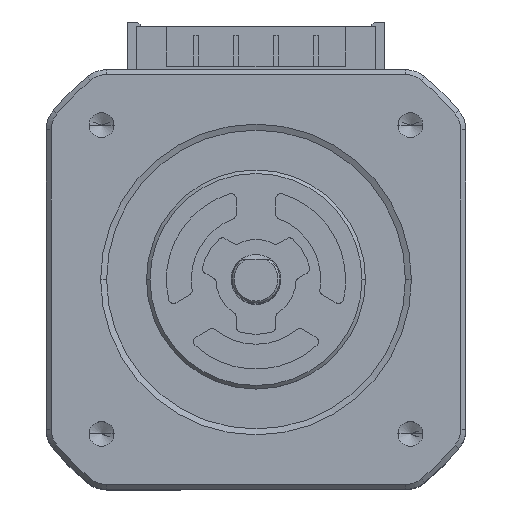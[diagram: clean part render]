
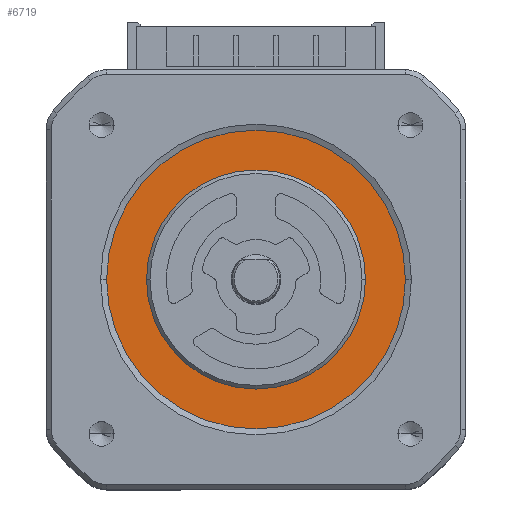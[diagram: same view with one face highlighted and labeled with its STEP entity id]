
A CAD part, top view. The second image highlights one B-rep face of the part: STEP entity #6719.
In plain terms, the highlighted planar face has unit normal (0, 0, 1).
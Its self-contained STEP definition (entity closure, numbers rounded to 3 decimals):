
#189 = EDGE_CURVE ( 'NONE', #11409, #7622, #958, .T. ) ;
#541 = DIRECTION ( 'NONE',  ( 0., 0., 1. ) ) ;
#593 = DIRECTION ( 'NONE',  ( 0., 0., 1. ) ) ;
#646 = ORIENTED_EDGE ( 'NONE', *, *, #6000, .T. ) ;
#779 = CARTESIAN_POINT ( 'NONE',  ( -15., 0., -0.3 ) ) ;
#882 = DIRECTION ( 'NONE',  ( 0., 0., 1. ) ) ;
#958 = CIRCLE ( 'NONE', #7071, 10.995 ) ;
#1521 = AXIS2_PLACEMENT_3D ( 'NONE', #7321, #882, #8407 ) ;
#2424 = EDGE_CURVE ( 'NONE', #6632, #4351, #4411, .T. ) ;
#2501 = AXIS2_PLACEMENT_3D ( 'NONE', #7030, #593, #8127 ) ;
#2564 = EDGE_CURVE ( 'NONE', #7622, #11409, #3067, .T. ) ;
#2863 = DIRECTION ( 'NONE',  ( 0., 0., 1. ) ) ;
#2940 = EDGE_LOOP ( 'NONE', ( #5233, #10770 ) ) ;
#3067 = CIRCLE ( 'NONE', #1521, 10.995 ) ;
#3628 = AXIS2_PLACEMENT_3D ( 'NONE', #9529, #11707, #5252 ) ;
#3713 = AXIS2_PLACEMENT_3D ( 'NONE', #9304, #2863, #10402 ) ;
#4351 = VERTEX_POINT ( 'NONE', #7552 ) ;
#4411 = CIRCLE ( 'NONE', #2501, 15. ) ;
#5233 = ORIENTED_EDGE ( 'NONE', *, *, #189, .F. ) ;
#5252 = DIRECTION ( 'NONE',  ( 1., 0., 0. ) ) ;
#5501 = FACE_OUTER_BOUND ( 'NONE', #7548, .T. ) ;
#6000 = EDGE_CURVE ( 'NONE', #4351, #6632, #6011, .T. ) ;
#6011 = CIRCLE ( 'NONE', #3713, 15. ) ;
#6275 = PLANE ( 'NONE',  #3628 ) ;
#6632 = VERTEX_POINT ( 'NONE', #779 ) ;
#6672 = ORIENTED_EDGE ( 'NONE', *, *, #2424, .T. ) ;
#6719 = ADVANCED_FACE ( 'NONE', ( #5501, #13780 ), #6275, .T. ) ;
#6971 = CARTESIAN_POINT ( 'NONE',  ( 0., 0., -0.3 ) ) ;
#7030 = CARTESIAN_POINT ( 'NONE',  ( 0., 0., -0.3 ) ) ;
#7071 = AXIS2_PLACEMENT_3D ( 'NONE', #6971, #541, #8069 ) ;
#7321 = CARTESIAN_POINT ( 'NONE',  ( 0., 0., -0.3 ) ) ;
#7548 = EDGE_LOOP ( 'NONE', ( #646, #6672 ) ) ;
#7552 = CARTESIAN_POINT ( 'NONE',  ( 15., 0., -0.3 ) ) ;
#7622 = VERTEX_POINT ( 'NONE', #10077 ) ;
#8069 = DIRECTION ( 'NONE',  ( 1., 0., 0. ) ) ;
#8127 = DIRECTION ( 'NONE',  ( 1., 0., 0. ) ) ;
#8407 = DIRECTION ( 'NONE',  ( 1., 0., 0. ) ) ;
#9304 = CARTESIAN_POINT ( 'NONE',  ( 0., 0., -0.3 ) ) ;
#9529 = CARTESIAN_POINT ( 'NONE',  ( 0., 15., -0.3 ) ) ;
#10077 = CARTESIAN_POINT ( 'NONE',  ( 10.995, 0., -0.3 ) ) ;
#10282 = CARTESIAN_POINT ( 'NONE',  ( -10.995, 0., -0.3 ) ) ;
#10402 = DIRECTION ( 'NONE',  ( 1., 0., 0. ) ) ;
#10770 = ORIENTED_EDGE ( 'NONE', *, *, #2564, .F. ) ;
#11409 = VERTEX_POINT ( 'NONE', #10282 ) ;
#11707 = DIRECTION ( 'NONE',  ( 0., 0., 1. ) ) ;
#13780 = FACE_BOUND ( 'NONE', #2940, .T. ) ;
